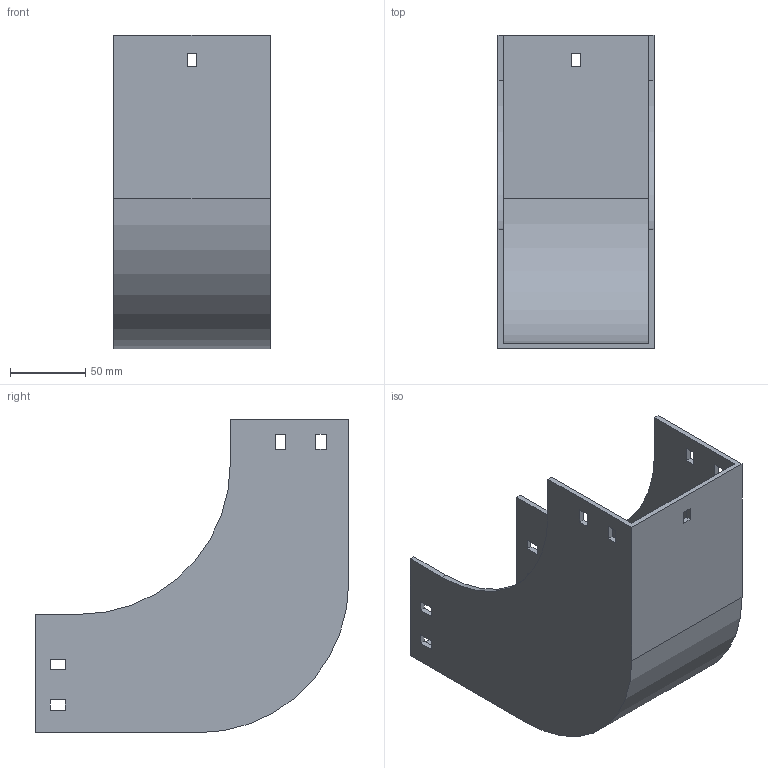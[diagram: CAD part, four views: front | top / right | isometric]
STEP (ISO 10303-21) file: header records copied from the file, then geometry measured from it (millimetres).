
FILE_DESCRIPTION (( 'STEP AP214' ), '1' );
FILE_NAME ('30F1C100.step', '2025-02-21T13:02:02', ( '' ), ( '' ), 'SwSTEP 2.0', 'SolidWorks 2023', '' );
FILE_SCHEMA (( 'AUTOMOTIVE_DESIGN' ));
Length unit declared in the file: millimetre
Products named in the file (1): 30F1C100
Bounding box: 104 x 209 x 209 mm (x, y, z)
Volume: 311503.8 mm3; surface area: 182495 mm2
Topology: 1 solids, 1 shells, 58 faces, 168 edges, 112 vertices
Faces by surface type: plane 54, cylinder 4
Entity records: 1943 total; most frequent: CARTESIAN_POINT 339, ORIENTED_EDGE 336, DIRECTION 294, EDGE_CURVE 168, VECTOR 160, LINE 160, VERTEX_POINT 112, EDGE_LOOP 78
